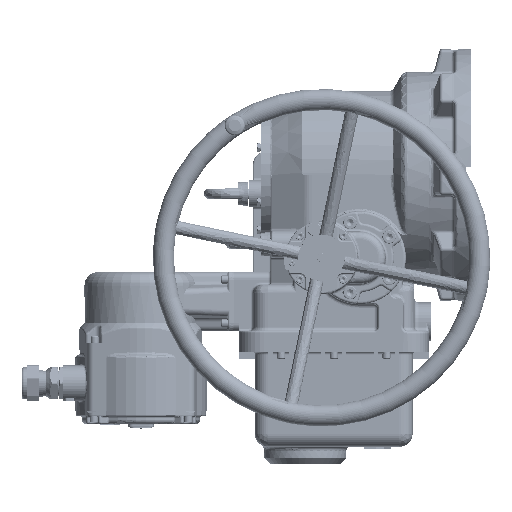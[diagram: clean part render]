
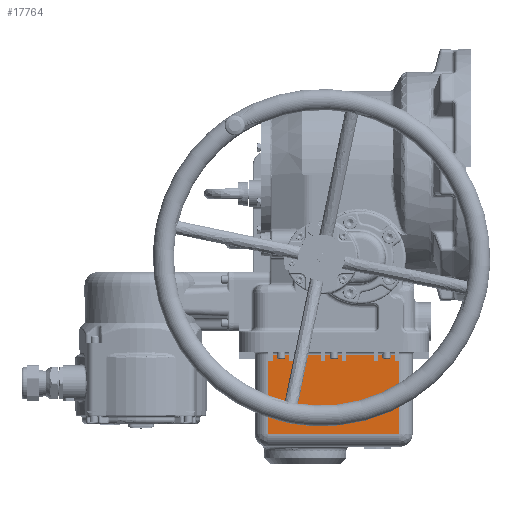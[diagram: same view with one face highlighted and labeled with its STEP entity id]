
A CAD part, left-side view. The second image highlights one B-rep face of the part: STEP entity #17764.
In plain terms, the highlighted planar face has unit normal (-1, 0, 0).
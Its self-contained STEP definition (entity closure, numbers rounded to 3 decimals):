
#17764=ADVANCED_FACE('',(#86230),#86232,.T.);
#86230=FACE_BOUND('',#86231,.T.);
#86231=EDGE_LOOP('',(#147915,#147916,#147917,#147918,#147919,#147920,#147921,#147922,
#147923,#147924,#147925,#147926,#147927,#147928,#147929,#147930,#147931,#147932,
#147933,#147934,#147935,#147936,#147937,#147938));
#86232=PLANE('',#86233);
#86233=AXIS2_PLACEMENT_3D('',#86234,#86235,#86236);
#86234=CARTESIAN_POINT('',(-106.,35.,-322.));
#86235=DIRECTION('',(-1.,0.,0.));
#86236=DIRECTION('',(0.,0.,-1.));
#147915=ORIENTED_EDGE('',*,*,#182039,.F.);
#147916=ORIENTED_EDGE('',*,*,#182040,.T.);
#147917=ORIENTED_EDGE('',*,*,#182041,.T.);
#147918=ORIENTED_EDGE('',*,*,#182042,.T.);
#147919=ORIENTED_EDGE('',*,*,#182043,.F.);
#147920=ORIENTED_EDGE('',*,*,#182044,.T.);
#147921=ORIENTED_EDGE('',*,*,#182045,.T.);
#147922=ORIENTED_EDGE('',*,*,#182046,.T.);
#147923=ORIENTED_EDGE('',*,*,#182047,.F.);
#147924=ORIENTED_EDGE('',*,*,#182048,.T.);
#147925=ORIENTED_EDGE('',*,*,#182049,.T.);
#147926=ORIENTED_EDGE('',*,*,#182050,.T.);
#147927=ORIENTED_EDGE('',*,*,#182051,.F.);
#147928=ORIENTED_EDGE('',*,*,#182052,.T.);
#147929=ORIENTED_EDGE('',*,*,#182053,.T.);
#147930=ORIENTED_EDGE('',*,*,#182054,.T.);
#147931=ORIENTED_EDGE('',*,*,#182055,.F.);
#147932=ORIENTED_EDGE('',*,*,#182056,.T.);
#147933=ORIENTED_EDGE('',*,*,#182057,.T.);
#147934=ORIENTED_EDGE('',*,*,#182058,.F.);
#147935=ORIENTED_EDGE('',*,*,#181877,.F.);
#147936=ORIENTED_EDGE('',*,*,#182037,.T.);
#147937=ORIENTED_EDGE('',*,*,#182059,.T.);
#147938=ORIENTED_EDGE('',*,*,#182060,.T.);
#181877=EDGE_CURVE('',#208946,#208949,#208951,.T.);
#182037=EDGE_CURVE('',#208946,#209227,#209229,.T.);
#182039=EDGE_CURVE('',#209231,#209232,#209233,.T.);
#182040=EDGE_CURVE('',#209231,#209234,#209235,.T.);
#182041=EDGE_CURVE('',#209234,#209236,#209237,.T.);
#182042=EDGE_CURVE('',#209236,#209238,#209239,.T.);
#182043=EDGE_CURVE('',#209240,#209238,#209241,.T.);
#182044=EDGE_CURVE('',#209240,#209242,#209243,.T.);
#182045=EDGE_CURVE('',#209242,#209244,#209245,.T.);
#182046=EDGE_CURVE('',#209244,#209246,#209247,.T.);
#182047=EDGE_CURVE('',#209248,#209246,#209249,.T.);
#182048=EDGE_CURVE('',#209248,#209250,#209251,.T.);
#182049=EDGE_CURVE('',#209250,#209252,#209253,.T.);
#182050=EDGE_CURVE('',#209252,#209254,#209255,.T.);
#182051=EDGE_CURVE('',#209256,#209254,#209257,.T.);
#182052=EDGE_CURVE('',#209256,#209258,#209259,.T.);
#182053=EDGE_CURVE('',#209258,#209260,#209261,.T.);
#182054=EDGE_CURVE('',#209260,#209262,#209263,.T.);
#182055=EDGE_CURVE('',#209264,#209262,#209265,.T.);
#182056=EDGE_CURVE('',#209264,#209266,#209267,.T.);
#182057=EDGE_CURVE('',#209266,#209268,#209269,.T.);
#182058=EDGE_CURVE('',#208949,#209268,#209270,.T.);
#182059=EDGE_CURVE('',#209227,#209271,#209272,.T.);
#182060=EDGE_CURVE('',#209271,#209232,#209273,.T.);
#208946=VERTEX_POINT('',#272676);
#208949=VERTEX_POINT('',#272685);
#208951=LINE('',#272690,#272691);
#209227=VERTEX_POINT('',#273301);
#209229=LINE('',#273305,#273306);
#209231=VERTEX_POINT('',#273311);
#209232=VERTEX_POINT('',#273312);
#209233=LINE('',#273313,#273314);
#209234=VERTEX_POINT('',#273316);
#209235=LINE('',#273317,#273318);
#209236=VERTEX_POINT('',#273320);
#209237=LINE('',#273321,#273322);
#209238=VERTEX_POINT('',#273324);
#209239=LINE('',#273325,#273326);
#209240=VERTEX_POINT('',#273328);
#209241=LINE('',#273329,#273330);
#209242=VERTEX_POINT('',#273332);
#209243=LINE('',#273333,#273334);
#209244=VERTEX_POINT('',#273336);
#209245=LINE('',#273337,#273338);
#209246=VERTEX_POINT('',#273340);
#209247=LINE('',#273341,#273342);
#209248=VERTEX_POINT('',#273344);
#209249=LINE('',#273345,#273346);
#209250=VERTEX_POINT('',#273348);
#209251=LINE('',#273349,#273350);
#209252=VERTEX_POINT('',#273352);
#209253=LINE('',#273353,#273354);
#209254=VERTEX_POINT('',#273356);
#209255=LINE('',#273357,#273358);
#209256=VERTEX_POINT('',#273360);
#209257=LINE('',#273361,#273362);
#209258=VERTEX_POINT('',#273364);
#209259=LINE('',#273365,#273366);
#209260=VERTEX_POINT('',#273368);
#209261=LINE('',#273369,#273370);
#209262=VERTEX_POINT('',#273372);
#209263=LINE('',#273373,#273374);
#209264=VERTEX_POINT('',#273376);
#209265=LINE('',#273377,#273378);
#209266=VERTEX_POINT('',#273380);
#209267=LINE('',#273381,#273382);
#209268=VERTEX_POINT('',#273384);
#209269=LINE('',#273385,#273386);
#209270=LINE('',#273388,#273389);
#209271=VERTEX_POINT('',#273391);
#209272=LINE('',#273392,#273393);
#209273=LINE('',#273395,#273396);
#272676=CARTESIAN_POINT('',(-106.,35.,-307.));
#272685=CARTESIAN_POINT('',(-106.,190.,-307.));
#272690=CARTESIAN_POINT('',(-106.,35.,-307.));
#272691=VECTOR('',#272692,1.);
#272692=DIRECTION('',(0.,1.,0.));
#273301=CARTESIAN_POINT('',(-106.,35.,-220.));
#273305=CARTESIAN_POINT('',(-106.,35.,-307.));
#273306=VECTOR('',#273307,1.);
#273307=DIRECTION('',(0.,0.,1.));
#273311=CARTESIAN_POINT('',(-106.,60.,-213.));
#273312=CARTESIAN_POINT('',(-106.,40.,-213.));
#273313=CARTESIAN_POINT('',(-106.,60.,-213.));
#273314=VECTOR('',#273315,1.);
#273315=DIRECTION('',(0.,-1.,0.));
#273316=CARTESIAN_POINT('',(-106.,60.,-220.));
#273317=CARTESIAN_POINT('',(-106.,60.,-213.));
#273318=VECTOR('',#273319,1.);
#273319=DIRECTION('',(0.,0.,-1.));
#273320=CARTESIAN_POINT('',(-106.,65.,-220.));
#273321=CARTESIAN_POINT('',(-106.,60.,-220.));
#273322=VECTOR('',#273323,1.);
#273323=DIRECTION('',(0.,1.,0.));
#273324=CARTESIAN_POINT('',(-106.,65.,-213.));
#273325=CARTESIAN_POINT('',(-106.,65.,-220.));
#273326=VECTOR('',#273327,1.);
#273327=DIRECTION('',(0.,0.,1.));
#273328=CARTESIAN_POINT('',(-106.,97.5,-213.));
#273329=CARTESIAN_POINT('',(-106.,97.5,-213.));
#273330=VECTOR('',#273331,1.);
#273331=DIRECTION('',(0.,-1.,0.));
#273332=CARTESIAN_POINT('',(-106.,97.5,-220.));
#273333=CARTESIAN_POINT('',(-106.,97.5,-213.));
#273334=VECTOR('',#273335,1.);
#273335=DIRECTION('',(0.,0.,-1.));
#273336=CARTESIAN_POINT('',(-106.,102.5,-220.));
#273337=CARTESIAN_POINT('',(-106.,97.5,-220.));
#273338=VECTOR('',#273339,1.);
#273339=DIRECTION('',(0.,1.,0.));
#273340=CARTESIAN_POINT('',(-106.,102.5,-213.));
#273341=CARTESIAN_POINT('',(-106.,102.5,-220.));
#273342=VECTOR('',#273343,1.);
#273343=DIRECTION('',(0.,0.,1.));
#273344=CARTESIAN_POINT('',(-106.,122.5,-213.));
#273345=CARTESIAN_POINT('',(-106.,122.5,-213.));
#273346=VECTOR('',#273347,1.);
#273347=DIRECTION('',(0.,-1.,0.));
#273348=CARTESIAN_POINT('',(-106.,122.5,-220.));
#273349=CARTESIAN_POINT('',(-106.,122.5,-213.));
#273350=VECTOR('',#273351,1.);
#273351=DIRECTION('',(0.,0.,-1.));
#273352=CARTESIAN_POINT('',(-106.,127.5,-220.));
#273353=CARTESIAN_POINT('',(-106.,122.5,-220.));
#273354=VECTOR('',#273355,1.);
#273355=DIRECTION('',(0.,1.,0.));
#273356=CARTESIAN_POINT('',(-106.,127.5,-213.));
#273357=CARTESIAN_POINT('',(-106.,127.5,-220.));
#273358=VECTOR('',#273359,1.);
#273359=DIRECTION('',(0.,0.,1.));
#273360=CARTESIAN_POINT('',(-106.,160.,-213.));
#273361=CARTESIAN_POINT('',(-106.,160.,-213.));
#273362=VECTOR('',#273363,1.);
#273363=DIRECTION('',(0.,-1.,0.));
#273364=CARTESIAN_POINT('',(-106.,160.,-220.));
#273365=CARTESIAN_POINT('',(-106.,160.,-213.));
#273366=VECTOR('',#273367,1.);
#273367=DIRECTION('',(0.,0.,-1.));
#273368=CARTESIAN_POINT('',(-106.,165.,-220.));
#273369=CARTESIAN_POINT('',(-106.,160.,-220.));
#273370=VECTOR('',#273371,1.);
#273371=DIRECTION('',(0.,1.,0.));
#273372=CARTESIAN_POINT('',(-106.,165.,-213.));
#273373=CARTESIAN_POINT('',(-106.,165.,-220.));
#273374=VECTOR('',#273375,1.);
#273375=DIRECTION('',(0.,0.,1.));
#273376=CARTESIAN_POINT('',(-106.,185.,-213.));
#273377=CARTESIAN_POINT('',(-106.,185.,-213.));
#273378=VECTOR('',#273379,1.);
#273379=DIRECTION('',(0.,-1.,0.));
#273380=CARTESIAN_POINT('',(-106.,185.,-220.));
#273381=CARTESIAN_POINT('',(-106.,185.,-213.));
#273382=VECTOR('',#273383,1.);
#273383=DIRECTION('',(0.,0.,-1.));
#273384=CARTESIAN_POINT('',(-106.,190.,-220.));
#273385=CARTESIAN_POINT('',(-106.,185.,-220.));
#273386=VECTOR('',#273387,1.);
#273387=DIRECTION('',(0.,1.,0.));
#273388=CARTESIAN_POINT('',(-106.,190.,-307.));
#273389=VECTOR('',#273390,1.);
#273390=DIRECTION('',(0.,0.,1.));
#273391=CARTESIAN_POINT('',(-106.,40.,-220.));
#273392=CARTESIAN_POINT('',(-106.,35.,-220.));
#273393=VECTOR('',#273394,1.);
#273394=DIRECTION('',(0.,1.,0.));
#273395=CARTESIAN_POINT('',(-106.,40.,-220.));
#273396=VECTOR('',#273397,1.);
#273397=DIRECTION('',(0.,0.,1.));
